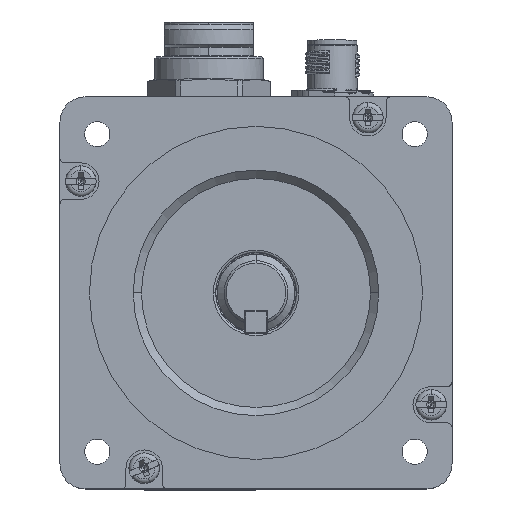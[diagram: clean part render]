
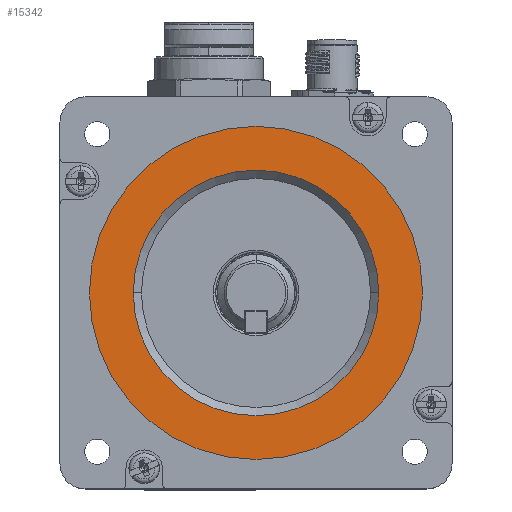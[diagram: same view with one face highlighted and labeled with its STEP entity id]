
A CAD part, top view. The second image highlights one B-rep face of the part: STEP entity #15342.
In plain terms, the highlighted planar face has unit normal (0, 0, 1).
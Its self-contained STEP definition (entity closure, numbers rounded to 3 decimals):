
#265 = DIRECTION ( 'NONE',  ( 0., 0., 1. ) ) ;
#10536 = CIRCLE ( 'NONE', #51255, 26.9 ) ;
#12830 = EDGE_LOOP ( 'NONE', ( #33550, #102630 ) ) ;
#15342 = ADVANCED_FACE ( 'NONE', ( #99420, #20253 ), #108643, .T. ) ;
#15637 = DIRECTION ( 'NONE',  ( 0., 0., 1. ) ) ;
#15936 = CARTESIAN_POINT ( 'NONE',  ( 5.85, 5.904, 219.616 ) ) ;
#17650 = DIRECTION ( 'NONE',  ( 1., 0., 0. ) ) ;
#20253 = FACE_OUTER_BOUND ( 'NONE', #103782, .T. ) ;
#21795 = CARTESIAN_POINT ( 'NONE',  ( 79.8, 43.354, 219.616 ) ) ;
#26678 = CARTESIAN_POINT ( 'NONE',  ( 43.3, 43.354, 219.616 ) ) ;
#33550 = ORIENTED_EDGE ( 'NONE', *, *, #72070, .T. ) ;
#35332 = DIRECTION ( 'NONE',  ( 0., 0., 1. ) ) ;
#40719 = VERTEX_POINT ( 'NONE', #107029 ) ;
#41718 = DIRECTION ( 'NONE',  ( 1., 0., 0. ) ) ;
#43411 = EDGE_CURVE ( 'NONE', #70877, #65122, #105537, .T. ) ;
#50597 = ORIENTED_EDGE ( 'NONE', *, *, #96316, .T. ) ;
#51255 = AXIS2_PLACEMENT_3D ( 'NONE', #95133, #52416, #94568 ) ;
#52416 = DIRECTION ( 'NONE',  ( 0., 0., -1. ) ) ;
#64023 = VERTEX_POINT ( 'NONE', #67026 ) ;
#64124 = CARTESIAN_POINT ( 'NONE',  ( 43.3, 43.354, 219.616 ) ) ;
#65122 = VERTEX_POINT ( 'NONE', #21795 ) ;
#67026 = CARTESIAN_POINT ( 'NONE',  ( 70.2, 43.354, 219.616 ) ) ;
#69550 = EDGE_CURVE ( 'NONE', #40719, #64023, #10536, .T. ) ;
#70568 = DIRECTION ( 'NONE',  ( 1., 0., 0. ) ) ;
#70877 = VERTEX_POINT ( 'NONE', #71766 ) ;
#71766 = CARTESIAN_POINT ( 'NONE',  ( 6.8, 43.354, 219.616 ) ) ;
#71799 = CIRCLE ( 'NONE', #110588, 36.5 ) ;
#72070 = EDGE_CURVE ( 'NONE', #64023, #40719, #108951, .T. ) ;
#75768 = ORIENTED_EDGE ( 'NONE', *, *, #43411, .T. ) ;
#83580 = AXIS2_PLACEMENT_3D ( 'NONE', #15936, #265, #17650 ) ;
#93093 = CARTESIAN_POINT ( 'NONE',  ( 43.3, 43.354, 219.616 ) ) ;
#94568 = DIRECTION ( 'NONE',  ( 1., 0., 0. ) ) ;
#95133 = CARTESIAN_POINT ( 'NONE',  ( 43.3, 43.354, 219.616 ) ) ;
#96316 = EDGE_CURVE ( 'NONE', #65122, #70877, #71799, .T. ) ;
#97650 = DIRECTION ( 'NONE',  ( 0., 0., -1. ) ) ;
#97894 = AXIS2_PLACEMENT_3D ( 'NONE', #64124, #97650, #107480 ) ;
#99420 = FACE_BOUND ( 'NONE', #12830, .T. ) ;
#102630 = ORIENTED_EDGE ( 'NONE', *, *, #69550, .T. ) ;
#103782 = EDGE_LOOP ( 'NONE', ( #50597, #75768 ) ) ;
#105537 = CIRCLE ( 'NONE', #112936, 36.5 ) ;
#107029 = CARTESIAN_POINT ( 'NONE',  ( 16.4, 43.354, 219.616 ) ) ;
#107480 = DIRECTION ( 'NONE',  ( 1., 0., 0. ) ) ;
#108643 = PLANE ( 'NONE',  #83580 ) ;
#108951 = CIRCLE ( 'NONE', #97894, 26.9 ) ;
#110588 = AXIS2_PLACEMENT_3D ( 'NONE', #93093, #15637, #41718 ) ;
#112936 = AXIS2_PLACEMENT_3D ( 'NONE', #26678, #35332, #70568 ) ;
